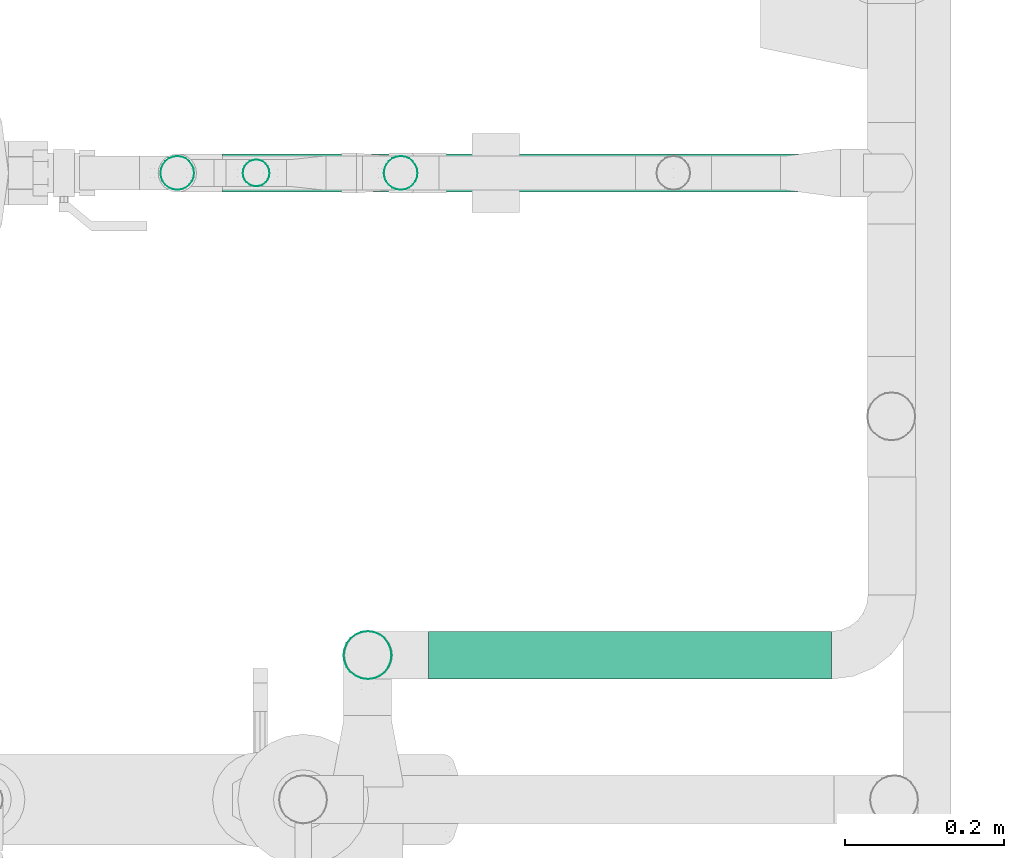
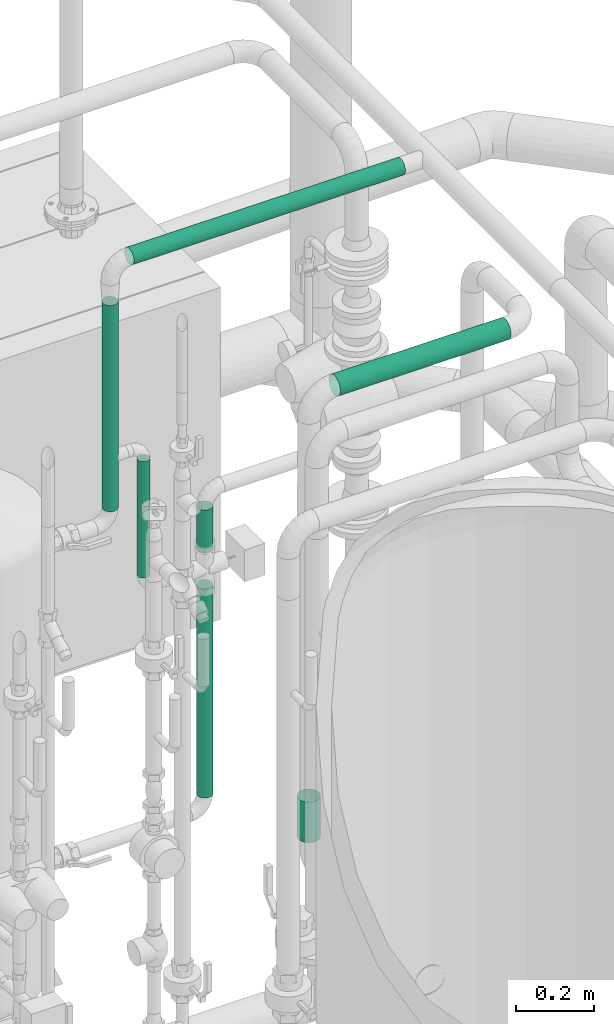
# One storey, part 282 of 374: 7 flow segments.
"""IFC2X3 building model written with IfcOpenShell, lengths in metres."""

from ifc_helpers import new_model, si_unit, direction, origin, place, context, subcontext, project, spatial, open_shell, surface_model, source, transform, mapped, element, save


model = new_model("IFC2X3")

# Units and contexts
model_context = context("Model", 3, precision=1e-05, world=origin(), true_north=direction((-0.4480736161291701, 0.8939966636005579)))
body_context = subcontext(model_context, "Body", "Model", "MODEL_VIEW")
ifc_project = project(units=[si_unit("LENGTHUNIT", "METRE"), si_unit("AREAUNIT", "SQUARE_METRE"), si_unit("VOLUMEUNIT", "CUBIC_METRE"), si_unit("PLANEANGLEUNIT", "RADIAN"), si_unit("THERMODYNAMICTEMPERATUREUNIT", "KELVIN"), si_unit("MASSUNIT", "GRAM", prefix="KILO"), si_unit("TIMEUNIT", "SECOND")], contexts=[model_context])

# Site, building, storey
site_placement = place(None, origin())
site = spatial("IfcSite", under=ifc_project, at=site_placement, Name="Site 1", CompositionType="ELEMENT")
building_placement = place(site_placement, origin())
building = spatial("IfcBuilding", under=site, at=building_placement, Name="Undefined", CompositionType="ELEMENT")
storey_placement = place(building_placement, origin())
storey = spatial("IfcBuildingStorey", under=building, at=storey_placement, Name="Rez de chauss\x8ee", CompositionType="ELEMENT", Elevation=0.0)

# Flow segments
shared_shape_1 = source(origin(), body_context, "Body", "SurfaceModel", [
    surface_model("IfcFaceBasedSurfaceModel", [(0.0, 0.005534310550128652, 0.0), (0.0, 0.0, 0.0), (0.6489999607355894, 0.0, 3.552713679e-15), (0.6489999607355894, 0.005534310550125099, 3.552713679e-15), (0.0, -0.00534573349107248, -0.0014323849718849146), (0.6489999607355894, -0.005345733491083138, -0.001432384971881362), (0.0, -0.010138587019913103, -0.004199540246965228), (0.6489999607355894, -0.010138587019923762, -0.004199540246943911), (0.0, -0.01405193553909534, -0.008112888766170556), (0.6489999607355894, -0.014051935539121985, -0.008112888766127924), (0.0, -0.016819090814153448, -0.012905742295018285), (0.6489999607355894, -0.016819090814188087, -0.0129057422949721), (0.0, -0.018251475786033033, -0.018251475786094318), (0.6489999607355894, -0.018251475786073, -0.018251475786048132), (0.0, -0.0182514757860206, -0.02378578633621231), (0.6489999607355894, -0.018251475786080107, -0.023785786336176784), (0.0, -0.01681909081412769, -0.029131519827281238), (0.6489999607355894, -0.016819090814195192, -0.029131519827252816), (0.0, -0.014051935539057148, -0.03392437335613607), (0.6489999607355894, -0.01405193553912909, -0.033924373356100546), (0.0, -0.010138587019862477, -0.037837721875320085), (0.6489999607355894, -0.010138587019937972, -0.03783772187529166), (0.0, -0.005345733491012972, -0.040604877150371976), (0.6489999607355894, -0.005345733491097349, -0.040604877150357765), (0.0, 6.4837024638e-14, -0.042037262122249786), (0.6489999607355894, -2.1316282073e-14, -0.04203726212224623), (0.0, 0.005534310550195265, -0.04203726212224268), (0.6489999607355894, 0.005534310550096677, -0.04203726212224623), (0.0, 0.010880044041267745, -0.04060487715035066), (0.6489999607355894, 0.010880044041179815, -0.04060487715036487), (0.0, 0.01567289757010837, -0.03783772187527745), (0.6489999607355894, 0.015672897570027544, -0.03783772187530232), (0.0, 0.019586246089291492, -0.033924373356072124), (0.6489999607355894, 0.019586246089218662, -0.033924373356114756), (0.0, 0.0223534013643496, -0.029131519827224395), (0.6489999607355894, 0.022353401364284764, -0.02913151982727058), (0.0, 0.02378578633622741, -0.023785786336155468), (0.6489999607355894, 0.023785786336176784, -0.023785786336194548), (0.0, 0.023785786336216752, -0.01825147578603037), (0.6489999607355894, 0.023785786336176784, -0.018251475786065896), (0.0, 0.022353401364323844, -0.012905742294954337), (0.6489999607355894, 0.022353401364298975, -0.012905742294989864), (0.0, 0.019586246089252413, -0.008112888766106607), (0.6489999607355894, 0.019586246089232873, -0.008112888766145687), (0.0, 0.015672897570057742, -0.004199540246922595), (0.6489999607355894, 0.015672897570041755, -0.0041995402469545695), (0.0, 0.010880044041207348, -0.0014323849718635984), (0.6489999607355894, 0.010880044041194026, -0.0014323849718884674)], [open_shell([[[0, 1, 2, 3]], [[1, 4, 5, 2]], [[4, 6, 7, 5]], [[6, 8, 9, 7]], [[8, 10, 11, 9]], [[10, 12, 13, 11]], [[12, 14, 15, 13]], [[14, 16, 17, 15]], [[16, 18, 19, 17]], [[18, 20, 21, 19]], [[20, 22, 23, 21]], [[22, 24, 25, 23]], [[24, 26, 27, 25]], [[26, 28, 29, 27]], [[28, 30, 31, 29]], [[30, 32, 33, 31]], [[32, 34, 35, 33]], [[34, 36, 37, 35]], [[36, 38, 39, 37]], [[38, 40, 41, 39]], [[40, 42, 43, 41]], [[42, 44, 45, 43]], [[44, 46, 47, 45]], [[46, 0, 3, 47]]])]),
])
flow_segment_1_placement = place(storey_placement, origin())
element("IfcFlowSegment", 1, at=flow_segment_1_placement, inside=storey, Name="Tube acier d'après DIN 2448", ObjectType="Tube acier d'après DIN 2448", context=body_context, shape_type="MappedRepresentation", body=[
    mapped(shared_shape_1, transform((54.093377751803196, 11.687606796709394, 2.0669999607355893), x_axis=(0.0, 0.0, -1.0), y_axis=(0.9914448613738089, -0.13052619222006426, 0.0), z_axis=(-0.13052619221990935, -0.9914448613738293, 0.0))),
])
shared_shape_2 = source(origin(), body_context, "Body", "SurfaceModel", [
    surface_model("IfcFaceBasedSurfaceModel", [(0.0, 0.005534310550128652, 0.0), (0.0, 0.0, 0.0), (0.6586373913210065, 7.105427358e-15, 0.0), (0.6586373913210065, 0.005534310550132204, 0.0), (0.0, -0.00534573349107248, -0.0014323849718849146), (0.6586373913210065, -0.005345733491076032, -0.001432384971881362), (0.0, -0.010138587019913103, -0.004199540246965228), (0.6586373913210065, -0.010138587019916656, -0.004199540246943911), (0.0, -0.01405193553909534, -0.008112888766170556), (0.6586373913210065, -0.014051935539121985, -0.008112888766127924), (0.0, -0.016819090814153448, -0.012905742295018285), (0.6586373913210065, -0.01681909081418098, -0.012905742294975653), (0.0, -0.018251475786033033, -0.018251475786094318), (0.6586373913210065, -0.01825147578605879, -0.018251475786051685), (0.0, -0.0182514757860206, -0.02378578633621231), (0.6586373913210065, -0.018251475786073, -0.023785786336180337), (0.0, -0.01681909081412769, -0.029131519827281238), (0.6586373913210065, -0.016819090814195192, -0.02913151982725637), (0.0, -0.014051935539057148, -0.03392437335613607), (0.6586373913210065, -0.014051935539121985, -0.033924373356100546), (0.0, -0.010138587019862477, -0.037837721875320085), (0.6586373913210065, -0.010138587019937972, -0.03783772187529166), (0.0, -0.005345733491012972, -0.040604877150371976), (0.6586373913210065, -0.005345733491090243, -0.040604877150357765), (0.0, 6.4837024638e-14, -0.042037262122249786), (0.6586373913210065, -1.4210854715e-14, -0.042037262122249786), (0.0, 0.005534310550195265, -0.04203726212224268), (0.6586373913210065, 0.005534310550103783, -0.042037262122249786), (0.0, 0.010880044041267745, -0.04060487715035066), (0.6586373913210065, 0.010880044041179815, -0.04060487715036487), (0.0, 0.01567289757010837, -0.03783772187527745), (0.6586373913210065, 0.01567289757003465, -0.037837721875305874), (0.0, 0.019586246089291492, -0.033924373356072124), (0.6586373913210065, 0.019586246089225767, -0.03392437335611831), (0.0, 0.0223534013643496, -0.029131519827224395), (0.6586373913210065, 0.02235340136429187, -0.029131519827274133), (0.0, 0.02378578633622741, -0.023785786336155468), (0.6586373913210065, 0.023785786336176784, -0.0237857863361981), (0.0, 0.023785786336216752, -0.01825147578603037), (0.6586373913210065, 0.02378578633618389, -0.01825147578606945), (0.0, 0.022353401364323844, -0.012905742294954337), (0.6586373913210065, 0.022353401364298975, -0.012905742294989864), (0.0, 0.019586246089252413, -0.008112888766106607), (0.6586373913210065, 0.019586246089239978, -0.00811288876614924), (0.0, 0.015672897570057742, -0.004199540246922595), (0.6586373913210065, 0.015672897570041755, -0.004199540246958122), (0.0, 0.010880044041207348, -0.0014323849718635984), (0.6586373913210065, 0.010880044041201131, -0.0014323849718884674)], [open_shell([[[0, 1, 2, 3]], [[1, 4, 5, 2]], [[4, 6, 7, 5]], [[6, 8, 9, 7]], [[8, 10, 11, 9]], [[10, 12, 13, 11]], [[12, 14, 15, 13]], [[14, 16, 17, 15]], [[16, 18, 19, 17]], [[18, 20, 21, 19]], [[20, 22, 23, 21]], [[22, 24, 25, 23]], [[24, 26, 27, 25]], [[26, 28, 29, 27]], [[28, 30, 31, 29]], [[30, 32, 33, 31]], [[32, 34, 35, 33]], [[34, 36, 37, 35]], [[36, 38, 39, 37]], [[38, 40, 41, 39]], [[40, 42, 43, 41]], [[42, 44, 45, 43]], [[44, 46, 47, 45]], [[46, 0, 3, 47]]])]),
])
flow_segment_2_placement = place(storey_placement, origin())
element("IfcFlowSegment", 2, at=flow_segment_2_placement, inside=storey, Name="Tube acier d'après DIN 2448", ObjectType="Tube acier d'après DIN 2448", context=body_context, shape_type="MappedRepresentation", body=[
    mapped(shared_shape_2, transform((54.3750844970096, 11.687606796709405, 1.0776373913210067), x_axis=(0.0, 0.0, -1.0), y_axis=(0.9914448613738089, -0.13052619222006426, 0.0), z_axis=(-0.13052619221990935, -0.9914448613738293, 0.0))),
])
shared_shape_3 = source(origin(), body_context, "Body", "SurfaceModel", [
    surface_model("IfcFaceBasedSurfaceModel", [(0.0, 0.004398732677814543, 0.0), (0.0, 0.0, 0.0), (0.3664028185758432, 0.0, 0.0), (0.3664028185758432, 0.00439873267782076, 0.0), (0.0, -0.004248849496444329, -0.00113847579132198), (0.3664028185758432, -0.0042488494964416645, -0.0011384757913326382), (0.0, -0.008058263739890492, -0.003337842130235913), (0.3664028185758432, -0.008058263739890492, -0.0033378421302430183), (0.0, -0.01116863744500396, -0.0064482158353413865), (0.3664028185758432, -0.011168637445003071, -0.006448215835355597), (0.0, -0.013368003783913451, -0.010257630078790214), (0.3664028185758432, -0.013368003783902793, -0.010257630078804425), (0.0, -0.014506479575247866, -0.014506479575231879), (0.3664028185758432, -0.014506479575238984, -0.01450647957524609), (0.0, -0.01450647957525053, -0.01890521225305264), (0.3664028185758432, -0.014506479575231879, -0.018905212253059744), (0.0, -0.013368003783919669, -0.023154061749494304), (0.3664028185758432, -0.013368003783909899, -0.02315406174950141), (0.0, -0.011168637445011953, -0.02696347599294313), (0.3664028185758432, -0.011168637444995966, -0.026963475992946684), (0.0, -0.008058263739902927, -0.03007384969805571), (0.3664028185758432, -0.008058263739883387, -0.030073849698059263), (0.0, -0.004248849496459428, -0.03227321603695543), (0.3664028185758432, -0.0042488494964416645, -0.03227321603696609), (0.0, -1.5099033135e-14, -0.03341169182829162), (0.3664028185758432, 1.4210854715e-14, -0.03341169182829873), (0.0, 0.00439873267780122, -0.03341169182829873), (0.3664028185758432, 0.00439873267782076, -0.03341169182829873), (0.0, 0.008647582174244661, -0.03227321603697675), (0.3664028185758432, 0.00864758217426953, -0.03227321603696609), (0.0, 0.012456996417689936, -0.030073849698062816), (0.3664028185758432, 0.012456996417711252, -0.03007384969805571), (0.0, 0.01556737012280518, -0.026963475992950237), (0.3664028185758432, 0.015567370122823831, -0.026963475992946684), (0.0, 0.017766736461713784, -0.023154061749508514), (0.3664028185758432, 0.01776673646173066, -0.02315406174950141), (0.0, 0.018905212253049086, -0.01890521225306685), (0.3664028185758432, 0.01890521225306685, -0.01890521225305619), (0.0, 0.018905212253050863, -0.01450647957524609), (0.3664028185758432, 0.018905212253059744, -0.014506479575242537), (0.0, 0.01776673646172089, -0.01025763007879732), (0.3664028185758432, 0.01776673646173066, -0.01025763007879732), (0.0, 0.015567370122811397, -0.006448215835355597), (0.3664028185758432, 0.015567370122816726, -0.006448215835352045), (0.0, 0.012456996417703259, -0.0033378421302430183), (0.3664028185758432, 0.012456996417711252, -0.0033378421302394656), (0.0, 0.00864758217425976, -0.0011384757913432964), (0.3664028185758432, 0.008647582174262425, -0.0011384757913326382)], [open_shell([[[0, 1, 2, 3]], [[1, 4, 5, 2]], [[4, 6, 7, 5]], [[6, 8, 9, 7]], [[8, 10, 11, 9]], [[10, 12, 13, 11]], [[12, 14, 15, 13]], [[14, 16, 17, 15]], [[16, 18, 19, 17]], [[18, 20, 21, 19]], [[20, 22, 23, 21]], [[22, 24, 25, 23]], [[24, 26, 27, 25]], [[26, 28, 29, 27]], [[28, 30, 31, 29]], [[30, 32, 33, 31]], [[32, 34, 35, 33]], [[34, 36, 37, 35]], [[36, 38, 39, 37]], [[38, 40, 41, 39]], [[40, 42, 43, 41]], [[42, 44, 45, 43]], [[44, 46, 47, 45]], [[46, 0, 3, 47]]])]),
])
flow_segment_3_placement = place(storey_placement, origin())
element("IfcFlowSegment", 3, at=flow_segment_3_placement, inside=storey, Name="Tube acier d'après DIN 2448", ObjectType="Tube acier d'après DIN 2448", context=body_context, shape_type="MappedRepresentation", body=[
    mapped(shared_shape_3, transform((54.20266104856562, 11.724360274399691, 1.5379402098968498), x_axis=(0.0, 0.0, -1.0), y_axis=(-0.9914448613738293, 0.13052619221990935, 0.0), z_axis=(0.13052619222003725, 0.9914448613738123, 0.0))),
])
shared_shape_4 = source(origin(), body_context, "Body", "SurfaceModel", [
    surface_model("IfcFaceBasedSurfaceModel", [(0.0, 0.007870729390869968, 7.105427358e-15), (0.0, 0.0, 0.0), (0.12769399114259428, 0.0, 7.105427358e-15), (0.12769399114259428, 0.007870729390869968, 0.0), (0.0, -0.00760254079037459, -0.0020370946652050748), (0.12769399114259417, -0.007602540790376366, -0.002037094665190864), (0.0, -0.01441879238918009, -0.00597245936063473), (0.12769399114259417, -0.014418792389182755, -0.005972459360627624), (0.0, -0.019984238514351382, -0.011537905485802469), (0.12769399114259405, -0.019984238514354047, -0.011537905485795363), (0.0, -0.023919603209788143, -0.018354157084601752), (0.12769399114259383, -0.023919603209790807, -0.018354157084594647), (0.0, -0.025956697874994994, -0.025956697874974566), (0.12769399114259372, -0.025956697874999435, -0.025956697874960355), (0.0, -0.025956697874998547, -0.03382742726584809), (0.1276939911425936, -0.02595669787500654, -0.03382742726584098), (0.0, -0.02391960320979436, -0.041429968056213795), (0.12769399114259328, -0.023919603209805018, -0.041429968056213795), (0.0, -0.019984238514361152, -0.04824621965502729), (0.12769399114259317, -0.019984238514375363, -0.048246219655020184), (0.0, -0.01441879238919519, -0.05381166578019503), (0.12769399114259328, -0.014418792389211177, -0.05381166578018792), (0.0, -0.007602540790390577, -0.05774703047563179), (0.12769399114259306, -0.007602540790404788, -0.05774703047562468), (0.0, -1.7763568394e-14, -0.05978412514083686), (0.12769399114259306, -3.5527136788e-14, -0.05978412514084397), (0.0, 0.007870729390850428, -0.05978412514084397), (0.12769399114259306, 0.007870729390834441, -0.05978412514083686), (0.0, 0.015473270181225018, -0.057747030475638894), (0.12769399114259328, 0.015473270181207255, -0.057747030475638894), (0.0, 0.022289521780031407, -0.05381166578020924), (0.12769399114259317, 0.022289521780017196, -0.053811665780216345), (0.0, 0.027854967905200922, -0.048246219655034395), (0.12769399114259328, 0.027854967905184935, -0.048246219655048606), (0.0, 0.031790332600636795, -0.04142996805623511), (0.1276939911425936, 0.0317903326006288, -0.04142996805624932), (0.0, 0.033827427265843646, -0.0338274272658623), (0.12769399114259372, 0.03382742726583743, -0.0338274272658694), (0.0, 0.0338274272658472, -0.025956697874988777), (0.12769399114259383, 0.03382742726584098, -0.025956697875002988), (0.0, 0.0317903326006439, -0.01835415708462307), (0.12769399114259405, 0.03179033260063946, -0.018354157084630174), (0.0, 0.02785496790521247, -0.01153790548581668), (0.12769399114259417, 0.027854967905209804, -0.011537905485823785), (0.0, 0.022289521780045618, -0.005972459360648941), (0.12769399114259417, 0.022289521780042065, -0.005972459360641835), (0.0, 0.015473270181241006, -0.0020370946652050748), (0.12769399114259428, 0.015473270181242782, -0.00203709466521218)], [open_shell([[[0, 1, 2, 3]], [[1, 4, 5, 2]], [[4, 6, 7, 5]], [[6, 8, 9, 7]], [[8, 10, 11, 9]], [[10, 12, 13, 11]], [[12, 14, 15, 13]], [[14, 16, 17, 15]], [[16, 18, 19, 17]], [[18, 20, 21, 19]], [[20, 22, 23, 21]], [[22, 24, 25, 23]], [[24, 26, 27, 25]], [[26, 28, 29, 27]], [[28, 30, 31, 29]], [[30, 32, 33, 31]], [[32, 34, 35, 33]], [[34, 36, 37, 35]], [[36, 38, 39, 37]], [[38, 40, 41, 39]], [[40, 42, 43, 41]], [[42, 44, 45, 43]], [[44, 46, 47, 45]], [[46, 0, 3, 47]]])]),
])
flow_segment_4_placement = place(storey_placement, origin())
element("IfcFlowSegment", 4, at=flow_segment_4_placement, inside=storey, Name="Tube acier d'après DIN 2448", ObjectType="Tube acier d'après DIN 2448", context=body_context, shape_type="MappedRepresentation", body=[
    mapped(shared_shape_4, transform((54.36797596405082, 11.092259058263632, 0.7957669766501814), x_axis=(-0.0005979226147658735, 0.0, -0.9999998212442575), y_axis=(0.13052616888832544, 0.991444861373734, -7.804456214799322e-05), z_axis=(0.9914446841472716, -0.1305261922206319, -0.0005928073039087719))),
])
shared_shape_5 = source(origin(), body_context, "Body", "SurfaceModel", [
    surface_model("IfcFaceBasedSurfaceModel", [(0.0, 0.006304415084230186, 7.105427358e-15), (0.0, 0.0, 0.0), (0.8080741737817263, 0.0, 0.0), (0.8080741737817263, 0.00630441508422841, 0.0), (0.0, -0.006089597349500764, -0.0016317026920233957), (0.8080741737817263, -0.006089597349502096, -0.0016317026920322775), (0.0, -0.011549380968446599, -0.004783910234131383), (0.8080741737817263, -0.011549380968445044, -0.004783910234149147), (0.0, -0.016007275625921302, -0.009241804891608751), (0.8080741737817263, -0.016007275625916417, -0.009241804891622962), (0.0, -0.01915948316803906, -0.014701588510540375), (0.8080741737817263, -0.019159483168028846, -0.01470158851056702), (0.0, -0.020791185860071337, -0.020791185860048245), (0.8080741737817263, -0.02079118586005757, -0.020791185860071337), (0.0, -0.020791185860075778, -0.027095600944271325), (0.8080741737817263, -0.02079118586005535, -0.027095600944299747), (0.0, -0.01915948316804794, -0.03318519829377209), (0.8080741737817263, -0.01915948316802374, -0.03318519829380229), (0.0, -0.01600727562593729, -0.038644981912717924), (0.8080741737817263, -0.01600727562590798, -0.03864498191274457), (0.0, -0.011549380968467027, -0.0431028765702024), (0.8080741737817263, -0.011549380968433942, -0.04310287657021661), (0.0, -0.006089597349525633, -0.04625508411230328), (0.8080741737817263, -0.0060895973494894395, -0.04625508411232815), (0.0, -2.4868995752e-14, -0.04788678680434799), (0.8080741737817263, 1.398881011e-14, -0.04788678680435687), (0.0, 0.006304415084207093, -0.047886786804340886), (0.8080741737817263, 0.0063044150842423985, -0.0478867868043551), (0.0, 0.012394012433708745, -0.046255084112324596), (0.8080741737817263, 0.01239401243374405, -0.046255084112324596), (0.0, 0.01785379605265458, -0.0431028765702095), (0.8080741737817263, 0.017853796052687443, -0.04310287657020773), (0.0, 0.022311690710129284, -0.03864498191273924), (0.8080741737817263, 0.022311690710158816, -0.03864498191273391), (0.0, 0.02546389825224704, -0.03318519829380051), (0.8080741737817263, 0.025463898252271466, -0.03318519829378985), (0.0, 0.02709560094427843, -0.027095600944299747), (0.8080741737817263, 0.027095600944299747, -0.027095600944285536), (0.0, 0.02709560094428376, -0.02079118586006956), (0.8080741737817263, 0.02709560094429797, -0.020791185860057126), (0.0, 0.025463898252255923, -0.014701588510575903), (0.8080741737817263, 0.025463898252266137, -0.014701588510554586), (0.0, 0.02231169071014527, -0.009241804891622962), (0.8080741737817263, 0.022311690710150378, -0.009241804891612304), (0.0, 0.01785379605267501, -0.004783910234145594), (0.8080741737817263, 0.017853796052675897, -0.004783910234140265), (0.0, 0.012394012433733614, -0.0016317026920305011), (0.8080741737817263, 0.012394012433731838, -0.0016317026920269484)], [open_shell([[[0, 1, 2, 3]], [[1, 4, 5, 2]], [[4, 6, 7, 5]], [[6, 8, 9, 7]], [[8, 10, 11, 9]], [[10, 12, 13, 11]], [[12, 14, 15, 13]], [[14, 16, 17, 15]], [[16, 18, 19, 17]], [[18, 20, 21, 19]], [[20, 22, 23, 21]], [[22, 24, 25, 23]], [[24, 26, 27, 25]], [[26, 28, 29, 27]], [[28, 30, 31, 29]], [[30, 32, 33, 31]], [[32, 34, 35, 33]], [[34, 36, 37, 35]], [[36, 38, 39, 37]], [[38, 40, 41, 39]], [[40, 42, 43, 41]], [[42, 44, 45, 43]], [[44, 46, 47, 45]], [[46, 0, 3, 47]]])]),
])
flow_segment_5_placement = place(storey_placement, origin())
element("IfcFlowSegment", 5, at=flow_segment_5_placement, inside=storey, Name="Tube acier d'après DIN 2448", ObjectType="Tube acier d'après DIN 2448", context=body_context, shape_type="MappedRepresentation", body=[
    mapped(shared_shape_5, transform((54.15586471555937, 11.68475731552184, 2.1817494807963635), x_axis=(1.0, 0.0, 0.0), y_axis=(0.0, -0.1305261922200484, 0.9914448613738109), z_axis=(0.0, -0.9914448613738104, -0.13052619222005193))),
])
shared_shape_6 = source(origin(), body_context, "Body", "SurfaceModel", [
    surface_model("IfcFaceBasedSurfaceModel", [(0.0, 0.007870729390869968, 7.105427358e-15), (0.0, 0.0, 0.0), (0.5081830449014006, 0.0, 1.776356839e-15), (0.5081830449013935, 0.00787072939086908, 1.776356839e-15), (0.0, -0.00760254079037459, -0.0020370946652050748), (0.5081830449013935, -0.007602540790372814, -0.0020370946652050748), (0.0, -0.01441879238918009, -0.00597245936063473), (0.5081830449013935, -0.014418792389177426, -0.005972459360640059), (0.0, -0.019984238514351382, -0.011537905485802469), (0.5081830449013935, -0.01998423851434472, -0.011537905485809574), (0.0, -0.023919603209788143, -0.018354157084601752), (0.5081830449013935, -0.023919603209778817, -0.018354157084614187), (0.0, -0.025956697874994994, -0.025956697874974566), (0.5081830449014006, -0.025956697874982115, -0.025956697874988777), (0.0, -0.025956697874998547, -0.03382742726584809), (0.5081830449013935, -0.02595669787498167, -0.033827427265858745), (0.0, -0.02391960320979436, -0.041429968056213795), (0.5081830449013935, -0.023919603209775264, -0.04142996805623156), (0.0, -0.019984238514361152, -0.04824621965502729), (0.5081830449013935, -0.019984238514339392, -0.04824621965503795), (0.0, -0.01441879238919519, -0.05381166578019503), (0.5081830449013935, -0.014418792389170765, -0.05381166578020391), (0.0, -0.007602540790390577, -0.05774703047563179), (0.5081830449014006, -0.007602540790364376, -0.05774703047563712), (0.0, -1.7763568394e-14, -0.05978412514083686), (0.5081830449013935, 8.881784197e-15, -0.059784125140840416), (0.0, 0.007870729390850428, -0.05978412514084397), (0.5081830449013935, 0.007870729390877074, -0.059784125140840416), (0.0, 0.015473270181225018, -0.057747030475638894), (0.5081830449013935, 0.015473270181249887, -0.057747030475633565), (0.0, 0.022289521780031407, -0.05381166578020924), (0.5081830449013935, 0.022289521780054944, -0.05381166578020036), (0.0, 0.027854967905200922, -0.048246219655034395), (0.5081830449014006, 0.027854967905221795, -0.048246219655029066), (0.0, 0.031790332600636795, -0.04142996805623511), (0.5081830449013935, 0.031790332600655, -0.04142996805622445), (0.0, 0.033827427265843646, -0.0338274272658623), (0.5081830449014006, 0.03382742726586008, -0.03382742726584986), (0.0, 0.0338274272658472, -0.025956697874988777), (0.5081830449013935, 0.0338274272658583, -0.025956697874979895), (0.0, 0.0317903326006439, -0.01835415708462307), (0.5081830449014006, 0.031790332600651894, -0.01835415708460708), (0.0, 0.02785496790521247, -0.01153790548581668), (0.5081830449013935, 0.027854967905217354, -0.011537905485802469), (0.0, 0.022289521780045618, -0.005972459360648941), (0.5081830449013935, 0.02228952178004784, -0.005972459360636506), (0.0, 0.015473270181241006, -0.0020370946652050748), (0.5081830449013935, 0.015473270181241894, -0.002037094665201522)], [open_shell([[[0, 1, 2, 3]], [[1, 4, 5, 2]], [[4, 6, 7, 5]], [[6, 8, 9, 7]], [[8, 10, 11, 9]], [[10, 12, 13, 11]], [[12, 14, 15, 13]], [[14, 16, 17, 15]], [[16, 18, 19, 17]], [[18, 20, 21, 19]], [[20, 22, 23, 21]], [[22, 24, 25, 23]], [[24, 26, 27, 25]], [[26, 28, 29, 27]], [[28, 30, 31, 29]], [[30, 32, 33, 31]], [[32, 34, 35, 33]], [[34, 36, 37, 35]], [[36, 38, 39, 37]], [[38, 40, 41, 39]], [[40, 42, 43, 41]], [[42, 44, 45, 43]], [[44, 46, 47, 45]], [[46, 0, 3, 47]]])]),
])
flow_segment_6_placement = place(storey_placement, origin())
element("IfcFlowSegment", 6, at=flow_segment_6_placement, inside=storey, Name="Tube acier d'après DIN 2448", ObjectType="Tube acier d'après DIN 2448", context=body_context, shape_type="MappedRepresentation", body=[
    mapped(shared_shape_6, transform((54.92378750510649, 11.12918511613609, 2.051883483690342), x_axis=(-0.9999998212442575, 0.0, 0.0005979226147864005), y_axis=(0.0005928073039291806, 0.13052619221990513, 0.9914446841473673), z_axis=(-7.8044562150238e-05, 0.9914448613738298, -0.13052616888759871))),
])
shared_shape_7 = source(origin(), body_context, "Body", "SurfaceModel", [
    surface_model("IfcFaceBasedSurfaceModel", [(0.0, 0.005534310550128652, 0.0), (0.0, 0.0, 0.0), (0.13557654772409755, 0.0, 8.8817842e-16), (0.13557654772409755, 0.005534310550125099, 1.776356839e-15), (0.0, -0.00534573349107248, -0.0014323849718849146), (0.13557654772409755, -0.005345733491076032, -0.0014323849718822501), (0.0, -0.010138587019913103, -0.004199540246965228), (0.13557654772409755, -0.010138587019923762, -0.004199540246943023), (0.0, -0.01405193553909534, -0.008112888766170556), (0.13557654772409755, -0.014051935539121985, -0.008112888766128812), (0.0, -0.016819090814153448, -0.012905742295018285), (0.13557654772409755, -0.016819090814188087, -0.012905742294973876), (0.0, -0.018251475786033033, -0.018251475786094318), (0.13557654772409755, -0.018251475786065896, -0.01825147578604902), (0.0, -0.0182514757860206, -0.02378578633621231), (0.13557654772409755, -0.018251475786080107, -0.02378578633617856), (0.0, -0.01681909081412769, -0.029131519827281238), (0.13557654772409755, -0.016819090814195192, -0.02913151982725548), (0.0, -0.014051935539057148, -0.03392437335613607), (0.13557654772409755, -0.01405193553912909, -0.03392437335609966), (0.0, -0.010138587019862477, -0.037837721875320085), (0.13557654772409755, -0.010138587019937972, -0.037837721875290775), (0.0, -0.005345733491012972, -0.040604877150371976), (0.13557654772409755, -0.005345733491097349, -0.040604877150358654), (0.0, 6.4837024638e-14, -0.042037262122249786), (0.13557654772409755, -2.1316282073e-14, -0.04203726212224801), (0.0, 0.005534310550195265, -0.04203726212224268), (0.13557654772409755, 0.005534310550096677, -0.04203726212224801), (0.0, 0.010880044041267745, -0.04060487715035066), (0.13557654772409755, 0.010880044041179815, -0.04060487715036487), (0.0, 0.01567289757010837, -0.03783772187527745), (0.13557654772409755, 0.015672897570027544, -0.03783772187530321), (0.0, 0.019586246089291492, -0.033924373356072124), (0.13557654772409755, 0.019586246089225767, -0.03392437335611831), (0.0, 0.0223534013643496, -0.029131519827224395), (0.13557654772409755, 0.022353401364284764, -0.029131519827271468), (0.0, 0.02378578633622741, -0.023785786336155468), (0.13557654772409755, 0.02378578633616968, -0.023785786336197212), (0.0, 0.023785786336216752, -0.01825147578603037), (0.13557654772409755, 0.023785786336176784, -0.018251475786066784), (0.0, 0.022353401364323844, -0.012905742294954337), (0.13557654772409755, 0.022353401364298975, -0.01290574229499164), (0.0, 0.019586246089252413, -0.008112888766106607), (0.13557654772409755, 0.019586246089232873, -0.008112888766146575), (0.0, 0.015672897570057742, -0.004199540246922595), (0.13557654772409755, 0.015672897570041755, -0.004199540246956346), (0.0, 0.010880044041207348, -0.0014323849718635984), (0.13557654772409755, 0.010880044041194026, -0.0014323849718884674)], [open_shell([[[0, 1, 2, 3]], [[1, 4, 5, 2]], [[4, 6, 7, 5]], [[6, 8, 9, 7]], [[8, 10, 11, 9]], [[10, 12, 13, 11]], [[12, 14, 15, 13]], [[14, 16, 17, 15]], [[16, 18, 19, 17]], [[18, 20, 21, 19]], [[20, 22, 23, 21]], [[22, 24, 25, 23]], [[24, 26, 27, 25]], [[26, 28, 29, 27]], [[28, 30, 31, 29]], [[30, 32, 33, 31]], [[32, 34, 35, 33]], [[34, 36, 37, 35]], [[36, 38, 39, 37]], [[38, 40, 41, 39]], [[40, 42, 43, 41]], [[42, 44, 45, 43]], [[44, 46, 47, 45]], [[46, 0, 3, 47]]])]),
])
flow_segment_7_placement = place(storey_placement, origin())
element("IfcFlowSegment", 7, at=flow_segment_7_placement, inside=storey, Name="Tube acier d'après DIN 2448", ObjectType="Tube acier d'après DIN 2448", context=body_context, shape_type="MappedRepresentation", body=[
    mapped(shared_shape_7, transform((54.3750844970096, 11.72856205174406, 1.1894373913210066), x_axis=(0.0, 0.0, 1.0), y_axis=(0.9914448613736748, 0.13052619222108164, 0.0), z_axis=(-0.13052619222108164, 0.9914448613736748, 0.0))),
])

save(model, "model.ifc")
